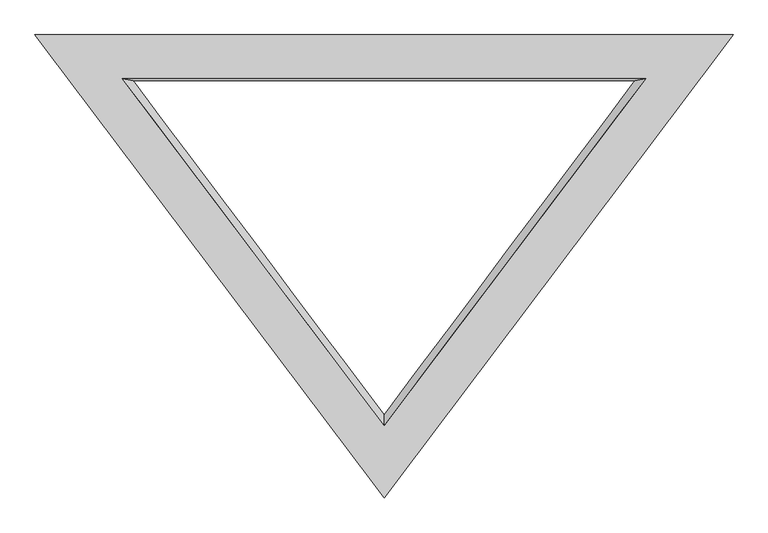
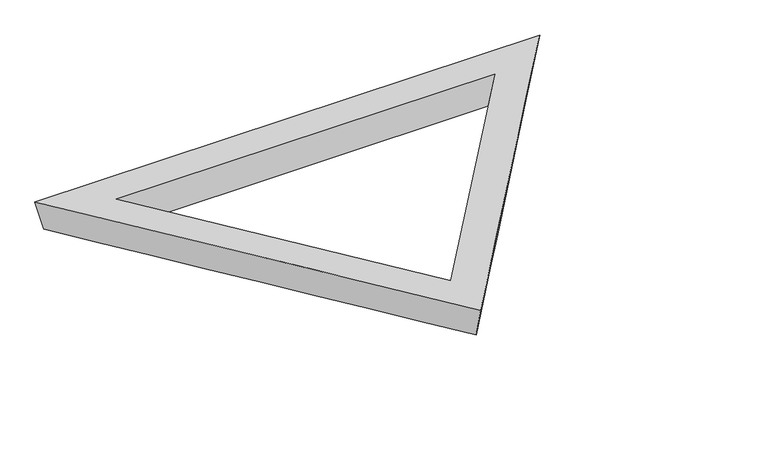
"""IFC4 building model written with IfcOpenShell, lengths in millimetres: plate geometry."""

from ifc_helpers import new_model, si_unit, frame, origin, place, context, project, spatial, source, transform, mapped, element, save
from ifc_brep_helpers import plane_surface, spline_surface, advanced_brep


def plate_598e60e6(model_context):
    return source(origin(), model_context, "Body", "AdvancedBrep", [
        advanced_brep(
        [(4927.4062988, 5576.4059526, 0.0), (4877.8995185, 5586.7077969, 196.6333943), (6096.0, 3970.3307663, 197.2902962), (6096.0, 4019.3114392, 0.0), (7314.1004815, 5586.7077969, 196.6333943), (7264.5937012, 5576.4059526, 0.0), (6096.0, 3680.7880947, 0.0), (7671.1550774, 5779.6059526, 0.0), (7721.6713147, 5789.9077801, 196.5508131), (6096.0, 3632.6984099, 197.4275113), (4520.8449226, 5779.6059526, 0.0), (4470.3286853, 5789.9077801, 196.5508131)],
        [
            (0, 1),
            (1, 2),
            (2, 3),
            (3, 0),
            (2, 4),
            (4, 5),
            (5, 3),
            (0, 5),
            (4, 1),
            (6, 7),
            (7, 8),
            (8, 9),
            (9, 6),
            (7, 10),
            (10, 11),
            (11, 8),
            (9, 11),
            (10, 6),
        ],
        [
            spline_surface(1, 1, [[(4927.4062988, 5576.4059526, 0.0), (6096.0, 4019.3114392, 0.0)], [(4877.8995185, 5586.7077969, 196.6333943), (6096.0, 3970.3307663, 197.2902962)]], [2, 2], [2, 2], [0.0, 1.0], [0.0, 1.0]),
            spline_surface(1, 1, [[(6096.0, 4019.3114392, 0.0), (7264.5937012, 5576.4059526, 0.0)], [(6096.0, 3970.3307663, 197.2902962), (7314.1004815, 5586.7077969, 196.6333943)]], [2, 2], [2, 2], [0.0, 1.0], [0.0, 1.0]),
            plane_surface(frame((6096.0, 5576.4059526, 0.0), z_axis=(0.0, -0.9986304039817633, 0.052319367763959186), x_axis=(-1.0, 0.0, 0.0))),
            spline_surface(1, 1, [[(6096.0, 3680.7880947, 0.0), (6096.0, 3632.6984099, 197.4275113)], [(7671.1550774, 5779.6059526, 0.0), (7721.6713147, 5789.9077801, 196.5508131)]], [2, 2], [2, 2], [0.0, 1.0], [0.0, 1.0]),
            plane_surface(frame((6096.0, 5779.6059526, 0.0), z_axis=(0.0, 0.9986292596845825, -0.05234120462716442), x_axis=(-1.0, 0.0, 0.0))),
            spline_surface(1, 1, [[(4520.8449226, 5779.6059526, 0.0), (4470.3286853, 5789.9077801, 196.5508131)], [(6096.0, 3680.7880947, 0.0), (6096.0, 3632.6984099, 197.4275113)]], [2, 2], [2, 2], [0.0, 1.0], [0.0, 1.0]),
            plane_surface(frame((6096.0, 5070.83799, 196.8430458), z_axis=(0.0, 0.0004064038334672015, 0.9999999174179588), x_axis=(0.6018380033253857, -0.7986181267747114, 0.0003245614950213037))),
            plane_surface(frame((6096.0, 5080.0, 0.0), z_axis=(0.0, 0.0, -1.0000000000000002), x_axis=(-0.6002540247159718, 0.7998094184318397, 0.0))),
        ],
        [
            (0, [[1, 2, 3, 4]]),
            (1, [[-3, 5, 6, 7]]),
            (2, [[-1, 8, -6, 9]]),
            (3, [[10, 11, 12, 13]]),
            (4, [[-11, 14, 15, 16]]),
            (5, [[-13, 17, -15, 18]]),
            (6, [[-12, -16, -17], [-2, -9, -5]]),
            (7, [[-10, -18, -14], [-4, -7, -8]]),
        ],
    ),
    ])


if __name__ == "__main__":
    model = new_model("IFC4")
    model_context = context("Model", 3, world=origin())
    ifc_project = project(units=[si_unit("LENGTHUNIT", "METRE", prefix="MILLI")], contexts=[model_context])
    site = spatial("IfcSite", under=ifc_project)
    building = spatial("IfcBuilding", under=site)
    placement = place(None, origin())
    plate_shape = plate_598e60e6(model_context)
    element("IfcPlate", 1, ObjectType="tn_cpanel_patbase_triangle_flat_seamless_frame_02_cylinder : tn_cpanel_pattern_mullion_t8\"xh8\"", at=placement, inside=building, context=model_context, shape_type="MappedRepresentation", body=[
        mapped(plate_shape, transform((0.0, 0.0, 0.0), x_axis=(1.0, 0.0, 0.0), y_axis=(0.0, 1.0, 0.0), z_axis=(0.0, 0.0, 1.0))),
    ])
    save(model, "model.ifc")
